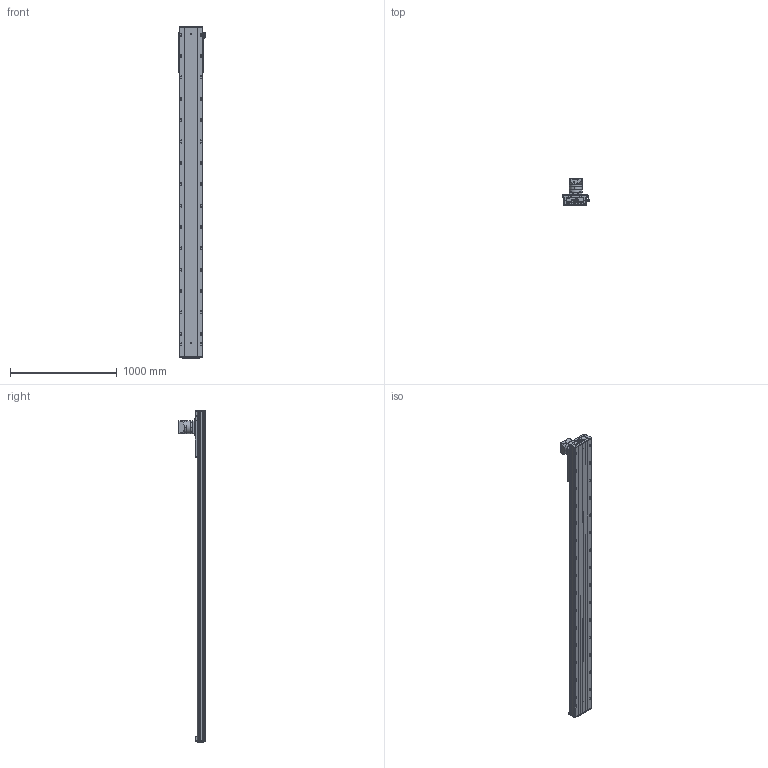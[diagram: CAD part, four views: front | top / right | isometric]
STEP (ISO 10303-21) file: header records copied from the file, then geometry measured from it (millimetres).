
FILE_DESCRIPTION (( 'STEP AP203' ), '1' );
FILE_NAME ('RY220-C-300-UK.SLDASM_2600.step', '2022-08-01T06:00:18', ( '' ), ( '' ), 'SwSTEP 2.0', 'SolidWorks 2016', '' );
FILE_SCHEMA (( 'CONFIG_CONTROL_DESIGN' ));
Length unit declared in the file: millimetre
Products named in the file (10): RY220喘沭賑輸; 滅袉蝶輸ㄗG412隅秶ㄘ; RY220喘沭俋离覜茼え; RY220喘沭綴裔啣; RY220菁釱MK-300_2600; RY220-C-300-UK.SLDASM_2600; RY140直线电机感应器674光电安装座; 覜茼ん674; PF115L1-S2-22-58-110-145-M8; RY220-齿条模组电机安装板
Assembly tree (12 placements, depth 2):
  RY220-C-300-UK.SLDASM_2600
    RY220菁釱MK-300_2600
    RY220喘沭賑輸
    RY220-齿条模组电机安装板
    PF115L1-S2-22-58-110-145-M8
    RY220喘沭綴裔啣  x2
    滅袉蝶輸ㄗG412隅秶ㄘ  x2
    RY140直线电机感应器674光电安装座
    覜茼ん674  x2
    RY220喘沭俋离覜茼え
Bounding box: 247 x 244.5 x 3109 mm (x, y, z)
Volume: 21003637.4 mm3; surface area: 4314266.2 mm2
Topology: 18 solids, 26 shells, 2350 faces, 6333 edges, 3955 vertices
Faces by surface type: cylinder 1143, plane 751, cone 294, bspline 162
Entity records: 74757 total; most frequent: CARTESIAN_POINT 20289, DIRECTION 11267, ORIENTED_EDGE 10978, EDGE_CURVE 5489, AXIS2_PLACEMENT_3D 4321, VERTEX_POINT 3581, EDGE_LOOP 2754, VECTOR 2625
